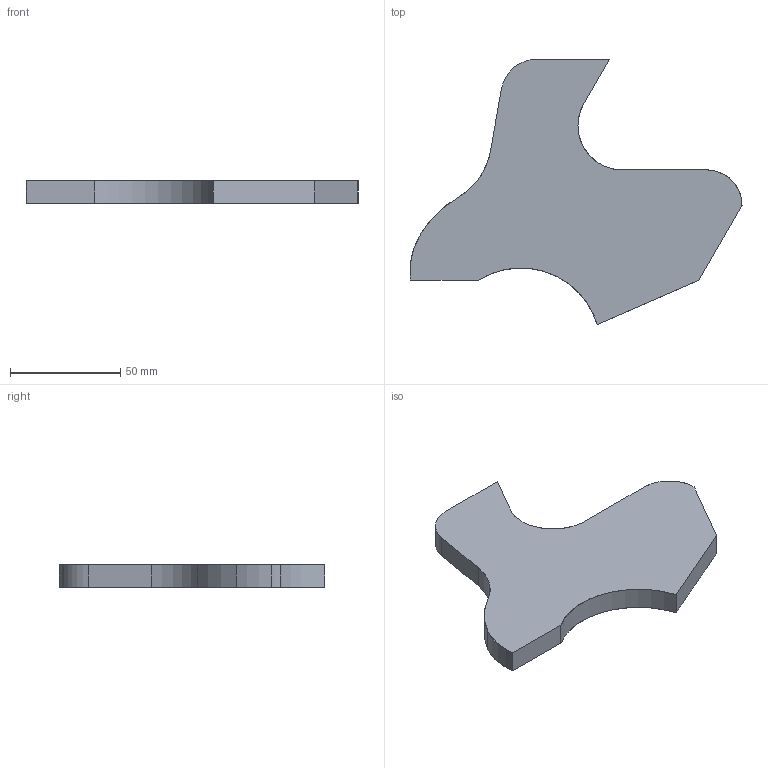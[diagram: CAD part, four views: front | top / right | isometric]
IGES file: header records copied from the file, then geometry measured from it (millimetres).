
Start section: SolidWorks IGES file using analytic representation for surfaces
Global section: file name: E:\Nouveau dossier\tarek\mécaniquee\L3GMCFM\TP0\EX7.IGS; native system: SolidWorks 2013; preprocessor: SolidWorks 2013; author: LENOVO; date: 180920.183405; units: millimetre
Bounding box: 150.26 x 120 x 10 mm (x, y, z)
Surface area: 22783.3 mm2 (no closed solid volume)
Topology: 0 solids, 0 shells, 18 faces, 200 edges, 200 vertices
Faces by surface type: revolution 9, bspline 9
